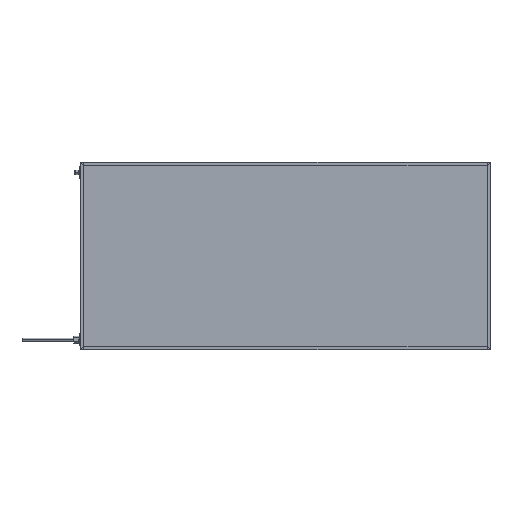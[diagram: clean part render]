
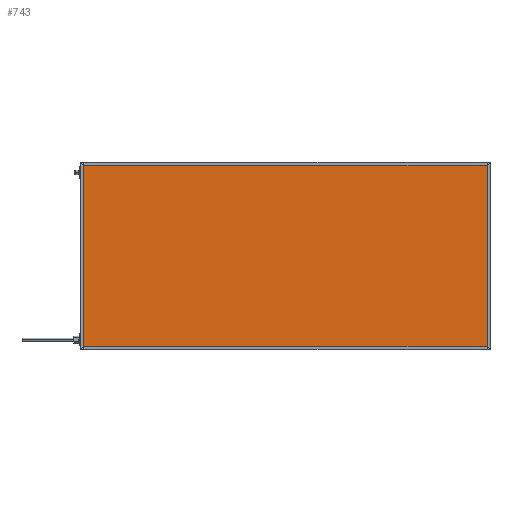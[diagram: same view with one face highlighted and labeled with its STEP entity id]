
A CAD part, top view. The second image highlights one B-rep face of the part: STEP entity #743.
In plain terms, the highlighted planar face has unit normal (0, 0, 1).
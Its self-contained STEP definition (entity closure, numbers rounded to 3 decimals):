
#743 = ADVANCED_FACE ( 'NONE', ( #6475 ), #13398, .F. ) ;
#995 = EDGE_CURVE ( 'NONE', #5102, #9217, #3156, .T. ) ;
#1012 = CARTESIAN_POINT ( 'NONE',  ( 4., 0., 41.85 ) ) ;
#2180 = CARTESIAN_POINT ( 'NONE',  ( 0., 0., 41.85 ) ) ;
#3156 = LINE ( 'NONE', #3424, #17119 ) ;
#3247 = VERTEX_POINT ( 'NONE', #13313 ) ;
#3424 = CARTESIAN_POINT ( 'NONE',  ( 0., 4., 41.85 ) ) ;
#3904 = DIRECTION ( 'NONE',  ( 0., 1., 0. ) ) ;
#4370 = EDGE_LOOP ( 'NONE', ( #12181, #7667, #9267, #16767 ) ) ;
#4890 = AXIS2_PLACEMENT_3D ( 'NONE', #2180, #5283, #8029 ) ;
#5102 = VERTEX_POINT ( 'NONE', #16072 ) ;
#5283 = DIRECTION ( 'NONE',  ( 0., 0., -1. ) ) ;
#6475 = FACE_OUTER_BOUND ( 'NONE', #4370, .T. ) ;
#6878 = EDGE_CURVE ( 'NONE', #3247, #13752, #17512, .T. ) ;
#7281 = DIRECTION ( 'NONE',  ( 1., 0., 0. ) ) ;
#7618 = VECTOR ( 'NONE', #11858, 1000. ) ;
#7667 = ORIENTED_EDGE ( 'NONE', *, *, #6878, .T. ) ;
#7993 = VECTOR ( 'NONE', #3904, 1000. ) ;
#8029 = DIRECTION ( 'NONE',  ( -1., 0., 0. ) ) ;
#8787 = VECTOR ( 'NONE', #13426, 1000. ) ;
#9217 = VERTEX_POINT ( 'NONE', #13185 ) ;
#9267 = ORIENTED_EDGE ( 'NONE', *, *, #12142, .T. ) ;
#10226 = CARTESIAN_POINT ( 'NONE',  ( 0., 496., 41.85 ) ) ;
#11858 = DIRECTION ( 'NONE',  ( -1., 0., 0. ) ) ;
#12019 = LINE ( 'NONE', #14947, #7993 ) ;
#12142 = EDGE_CURVE ( 'NONE', #13752, #5102, #16237, .T. ) ;
#12181 = ORIENTED_EDGE ( 'NONE', *, *, #17765, .T. ) ;
#13185 = CARTESIAN_POINT ( 'NONE',  ( 1096., 4., 41.85 ) ) ;
#13313 = CARTESIAN_POINT ( 'NONE',  ( 1096., 496., 41.85 ) ) ;
#13398 = PLANE ( 'NONE',  #4890 ) ;
#13426 = DIRECTION ( 'NONE',  ( 0., -1., 0. ) ) ;
#13752 = VERTEX_POINT ( 'NONE', #15373 ) ;
#14947 = CARTESIAN_POINT ( 'NONE',  ( 1096., 0., 41.85 ) ) ;
#15373 = CARTESIAN_POINT ( 'NONE',  ( 4., 496., 41.85 ) ) ;
#16072 = CARTESIAN_POINT ( 'NONE',  ( 4., 4., 41.85 ) ) ;
#16237 = LINE ( 'NONE', #1012, #8787 ) ;
#16767 = ORIENTED_EDGE ( 'NONE', *, *, #995, .T. ) ;
#17119 = VECTOR ( 'NONE', #7281, 1000. ) ;
#17512 = LINE ( 'NONE', #10226, #7618 ) ;
#17765 = EDGE_CURVE ( 'NONE', #9217, #3247, #12019, .T. ) ;
